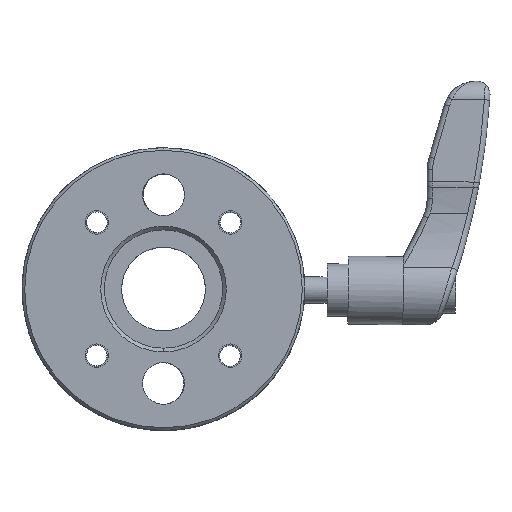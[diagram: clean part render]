
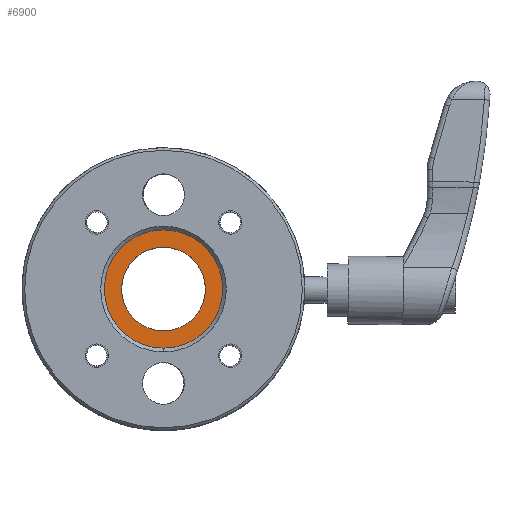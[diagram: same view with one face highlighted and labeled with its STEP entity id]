
A CAD part, top view. The second image highlights one B-rep face of the part: STEP entity #6900.
In plain terms, the highlighted planar face has unit normal (0, 0, 1).
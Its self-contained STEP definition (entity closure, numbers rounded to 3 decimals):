
#3491 = VERTEX_POINT ( 'NONE', #18318 ) ;
#3493 = EDGE_CURVE ( 'NONE', #3494, #3491, #18472, .T. ) ;
#3494 = VERTEX_POINT ( 'NONE', #18463 ) ;
#3833 = VERTEX_POINT ( 'NONE', #19159 ) ;
#3835 = EDGE_CURVE ( 'NONE', #3836, #3833, #19156, .T. ) ;
#3836 = VERTEX_POINT ( 'NONE', #19147 ) ;
#5062 = EDGE_CURVE ( 'NONE', #3833, #3836, #23533, .T. ) ;
#6900 = ADVANCED_FACE ( 'NONE', ( #37509, #37505 ), #37499, .F. ) ;
#6902 = ORIENTED_EDGE ( 'NONE', *, *, #3835, .T. ) ;
#6903 = ORIENTED_EDGE ( 'NONE', *, *, #5062, .T. ) ;
#6904 = EDGE_LOOP ( 'NONE', ( #6905, #6907 ) ) ;
#6905 = ORIENTED_EDGE ( 'NONE', *, *, #3493, .T. ) ;
#6907 = ORIENTED_EDGE ( 'NONE', *, *, #6908, .T. ) ;
#6908 = EDGE_CURVE ( 'NONE', #3491, #3494, #37483, .T. ) ;
#7139 = EDGE_LOOP ( 'NONE', ( #6902, #6903 ) ) ;
#18318 = CARTESIAN_POINT ( 'NONE',  ( 0., -11.3, -1.3 ) ) ;
#18463 = CARTESIAN_POINT ( 'NONE',  ( 0., 11.3, -1.3 ) ) ;
#18466 = DIRECTION ( 'NONE',  ( -1., 0., 0. ) ) ;
#18468 = DIRECTION ( 'NONE',  ( 0., 0., 1. ) ) ;
#18470 = CARTESIAN_POINT ( 'NONE',  ( 0., 0., -1.3 ) ) ;
#18471 = AXIS2_PLACEMENT_3D ( 'NONE', #18470, #18468, #18466 ) ;
#18472 = CIRCLE ( 'NONE', #18471, 11.3 ) ;
#19147 = CARTESIAN_POINT ( 'NONE',  ( -8., 0., -1.3 ) ) ;
#19149 = DIRECTION ( 'NONE',  ( 1., 0., 0. ) ) ;
#19151 = DIRECTION ( 'NONE',  ( 0., 0., -1. ) ) ;
#19152 = CARTESIAN_POINT ( 'NONE',  ( 0., 0., -1.3 ) ) ;
#19154 = AXIS2_PLACEMENT_3D ( 'NONE', #19152, #19151, #19149 ) ;
#19156 = CIRCLE ( 'NONE', #19154, 8. ) ;
#19159 = CARTESIAN_POINT ( 'NONE',  ( 8., 0., -1.3 ) ) ;
#23529 = DIRECTION ( 'NONE',  ( 1., 0., 0. ) ) ;
#23530 = DIRECTION ( 'NONE',  ( 0., 0., -1. ) ) ;
#23531 = CARTESIAN_POINT ( 'NONE',  ( 0., 0., -1.3 ) ) ;
#23532 = AXIS2_PLACEMENT_3D ( 'NONE', #23531, #23530, #23529 ) ;
#23533 = CIRCLE ( 'NONE', #23532, 8. ) ;
#37476 = DIRECTION ( 'NONE',  ( -1., 0., 0. ) ) ;
#37478 = DIRECTION ( 'NONE',  ( 0., 0., 1. ) ) ;
#37480 = CARTESIAN_POINT ( 'NONE',  ( 0., 0., -1.3 ) ) ;
#37481 = AXIS2_PLACEMENT_3D ( 'NONE', #37480, #37478, #37476 ) ;
#37483 = CIRCLE ( 'NONE', #37481, 11.3 ) ;
#37492 = DIRECTION ( 'NONE',  ( 1., 0., 0. ) ) ;
#37494 = DIRECTION ( 'NONE',  ( 0., 0., -1. ) ) ;
#37496 = CARTESIAN_POINT ( 'NONE',  ( 0., 0., -1.3 ) ) ;
#37498 = AXIS2_PLACEMENT_3D ( 'NONE', #37496, #37494, #37492 ) ;
#37499 = PLANE ( 'NONE',  #37498 ) ;
#37505 = FACE_OUTER_BOUND ( 'NONE', #6904, .T. ) ;
#37509 = FACE_BOUND ( 'NONE', #7139, .T. ) ;
